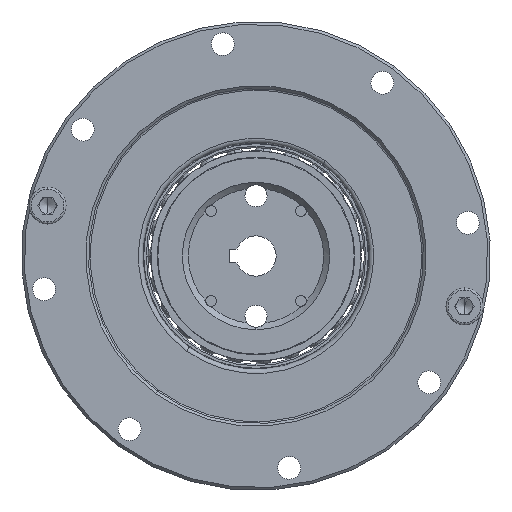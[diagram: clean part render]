
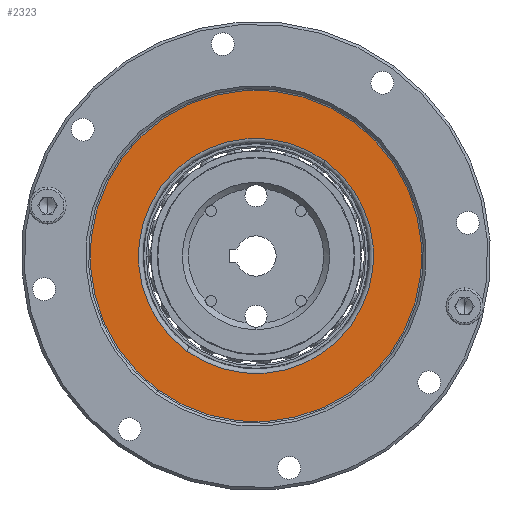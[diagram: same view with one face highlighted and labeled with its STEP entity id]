
A CAD part, left-side view. The second image highlights one B-rep face of the part: STEP entity #2323.
In plain terms, the highlighted planar face has unit normal (-1, 0, 0).
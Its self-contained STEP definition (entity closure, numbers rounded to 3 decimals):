
#224 = VERTEX_POINT ( 'NONE', #12357 ) ;
#532 = CARTESIAN_POINT ( 'NONE',  ( 3.15, 0., 17.548 ) ) ;
#1042 = FACE_OUTER_BOUND ( 'NONE', #2035, .T. ) ;
#1302 = AXIS2_PLACEMENT_3D ( 'NONE', #4272, #16593, #6044 ) ;
#1385 = VERTEX_POINT ( 'NONE', #532 ) ;
#1530 = ORIENTED_EDGE ( 'NONE', *, *, #7495, .T. ) ;
#1879 = DIRECTION ( 'NONE',  ( -1., 0., 0. ) ) ;
#2035 = EDGE_LOOP ( 'NONE', ( #8564, #1530 ) ) ;
#2323 = ADVANCED_FACE ( 'NONE', ( #19821, #1042 ), #20636, .F. ) ;
#3590 = CARTESIAN_POINT ( 'NONE',  ( 3.15, 0., 0. ) ) ;
#4238 = EDGE_CURVE ( 'NONE', #224, #9504, #9151, .T. ) ;
#4272 = CARTESIAN_POINT ( 'NONE',  ( 3.15, 0., 0. ) ) ;
#5143 = CARTESIAN_POINT ( 'NONE',  ( 3.15, 17.548, 0. ) ) ;
#5379 = DIRECTION ( 'NONE',  ( 0., 0., 1. ) ) ;
#5395 = AXIS2_PLACEMENT_3D ( 'NONE', #18820, #8247, #20586 ) ;
#6044 = DIRECTION ( 'NONE',  ( 0., 0., 1. ) ) ;
#6184 = CIRCLE ( 'NONE', #1302, 17.548 ) ;
#6915 = DIRECTION ( 'NONE',  ( 0., 0., -1. ) ) ;
#7495 = EDGE_CURVE ( 'NONE', #9504, #224, #7648, .T. ) ;
#7648 = CIRCLE ( 'NONE', #18923, 24.75 ) ;
#8247 = DIRECTION ( 'NONE',  ( -1., 0., 0. ) ) ;
#8343 = CARTESIAN_POINT ( 'NONE',  ( 3.15, 0., -24.75 ) ) ;
#8564 = ORIENTED_EDGE ( 'NONE', *, *, #4238, .T. ) ;
#9151 = CIRCLE ( 'NONE', #5395, 24.75 ) ;
#9334 = EDGE_CURVE ( 'NONE', #1385, #11459, #6184, .T. ) ;
#9504 = VERTEX_POINT ( 'NONE', #8343 ) ;
#10693 = EDGE_CURVE ( 'NONE', #11459, #1385, #14235, .T. ) ;
#11459 = VERTEX_POINT ( 'NONE', #18424 ) ;
#12357 = CARTESIAN_POINT ( 'NONE',  ( 3.15, 0., 24.75 ) ) ;
#12452 = CARTESIAN_POINT ( 'NONE',  ( 3.15, 0., 0. ) ) ;
#12543 = AXIS2_PLACEMENT_3D ( 'NONE', #5143, #17464, #6915 ) ;
#14235 = CIRCLE ( 'NONE', #19215, 17.548 ) ;
#14239 = DIRECTION ( 'NONE',  ( 0., 0., 1. ) ) ;
#15940 = ORIENTED_EDGE ( 'NONE', *, *, #10693, .F. ) ;
#15950 = DIRECTION ( 'NONE',  ( -1., 0., 0. ) ) ;
#16593 = DIRECTION ( 'NONE',  ( -1., 0., 0. ) ) ;
#17464 = DIRECTION ( 'NONE',  ( 1., 0., 0. ) ) ;
#17747 = ORIENTED_EDGE ( 'NONE', *, *, #9334, .F. ) ;
#18424 = CARTESIAN_POINT ( 'NONE',  ( 3.15, 0., -17.548 ) ) ;
#18820 = CARTESIAN_POINT ( 'NONE',  ( 3.15, 0., 0. ) ) ;
#18923 = AXIS2_PLACEMENT_3D ( 'NONE', #3590, #15950, #5379 ) ;
#19215 = AXIS2_PLACEMENT_3D ( 'NONE', #12452, #1879, #14239 ) ;
#19821 = FACE_BOUND ( 'NONE', #19840, .T. ) ;
#19840 = EDGE_LOOP ( 'NONE', ( #17747, #15940 ) ) ;
#20586 = DIRECTION ( 'NONE',  ( 0., 0., 1. ) ) ;
#20636 = PLANE ( 'NONE',  #12543 ) ;
